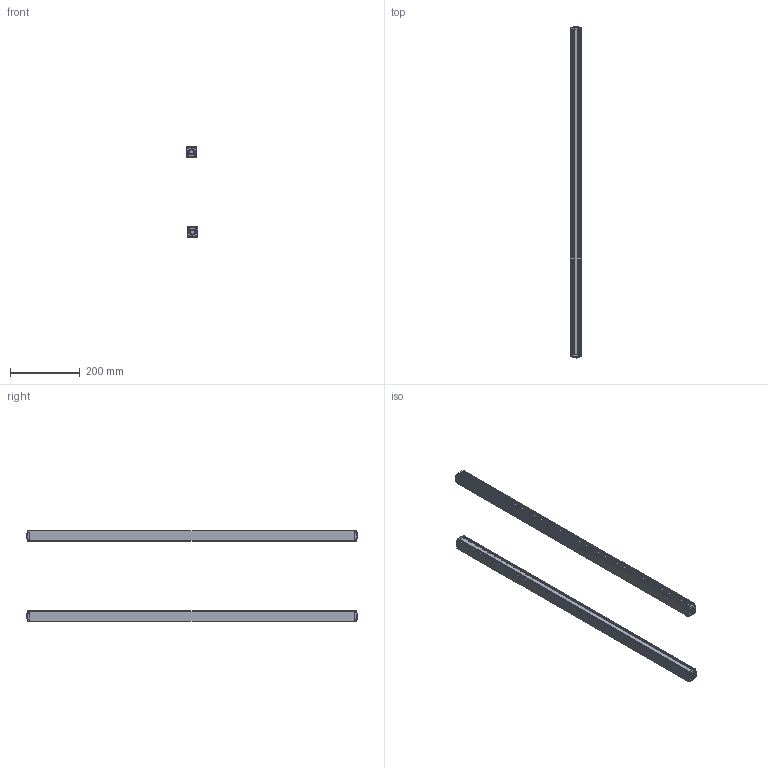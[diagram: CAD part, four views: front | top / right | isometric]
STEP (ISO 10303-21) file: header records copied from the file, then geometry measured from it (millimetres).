
FILE_DESCRIPTION (( 'STEP AP203' ), '1' );
FILE_NAME ('ZDA4620-930.STEP', '2022-12-29T09:43:27', ( 'User' ), ( 'China' ), 'SwSTEP 2.0', 'SolidWorks 2020', '' );
FILE_SCHEMA (( 'CONFIG_CONTROL_DESIGN' ));
Length unit declared in the file: millimetre
Products named in the file (5): ZDA4620-930; 錨璃8 - 萵掛 (2); 錨璃10; 錨璃1; 錨璃8
Assembly tree (8 placements, depth 2):
  ZDA4620-930
    錨璃1  x2
    錨璃8  x2
    錨璃8 - 萵掛 (2)  x2
    錨璃10  x2
Bounding box: 32.36 x 951.4 x 260.35 mm (x, y, z)
Volume: 590934.9 mm3; surface area: 625128.8 mm2
Topology: 8 solids, 8 shells, 1032 faces, 2690 edges, 1668 vertices
Faces by surface type: plane 464, cylinder 310, cone 120, bspline 58, torus 48, sphere 32
Entity records: 17901 total; most frequent: CARTESIAN_POINT 4731, ORIENTED_EDGE 2666, DIRECTION 2616, EDGE_CURVE 1333, AXIS2_PLACEMENT_3D 894, VERTEX_POINT 834, VECTOR 828, LINE 828
